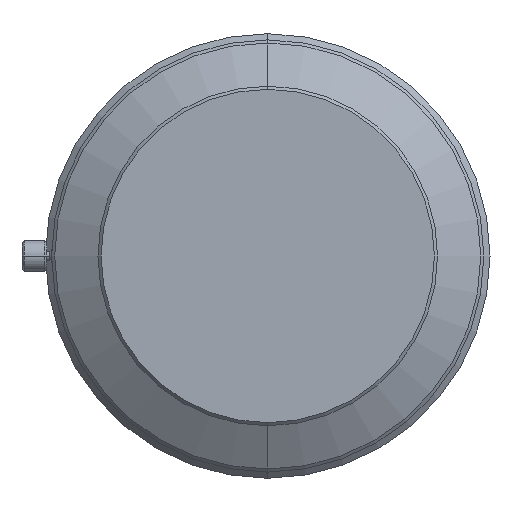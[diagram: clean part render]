
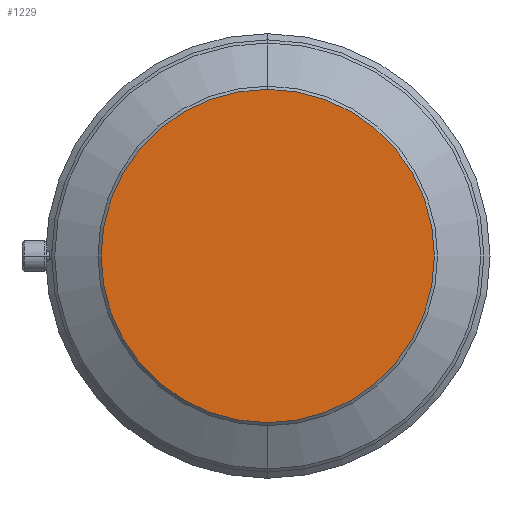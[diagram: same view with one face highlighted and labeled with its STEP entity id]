
A CAD part, left-side view. The second image highlights one B-rep face of the part: STEP entity #1229.
In plain terms, the highlighted planar face has unit normal (-1, 0, 0).
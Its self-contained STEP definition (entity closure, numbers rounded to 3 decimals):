
#55 = CARTESIAN_POINT ( 'NONE',  ( -340., 27., 0. ) ) ;
#118 = ORIENTED_EDGE ( 'NONE', *, *, #1238, .T. ) ;
#195 = VERTEX_POINT ( 'NONE', #651 ) ;
#196 = DIRECTION ( 'NONE',  ( 0., 0., -1. ) ) ;
#272 = CARTESIAN_POINT ( 'NONE',  ( -340., 0., -27. ) ) ;
#342 = FACE_OUTER_BOUND ( 'NONE', #629, .T. ) ;
#421 = ORIENTED_EDGE ( 'NONE', *, *, #877, .T. ) ;
#542 = CARTESIAN_POINT ( 'NONE',  ( -340., 0., 0. ) ) ;
#629 = EDGE_LOOP ( 'NONE', ( #118, #421 ) ) ;
#651 = CARTESIAN_POINT ( 'NONE',  ( -340., 0., 27. ) ) ;
#682 = AXIS2_PLACEMENT_3D ( 'NONE', #55, #697, #196 ) ;
#697 = DIRECTION ( 'NONE',  ( 1., 0., 0. ) ) ;
#848 = PLANE ( 'NONE',  #682 ) ;
#877 = EDGE_CURVE ( 'NONE', #195, #2027, #1260, .T. ) ;
#891 = CARTESIAN_POINT ( 'NONE',  ( -340., 0., 0. ) ) ;
#971 = DIRECTION ( 'NONE',  ( -1., 0., 0. ) ) ;
#1143 = CIRCLE ( 'NONE', #1407, 27. ) ;
#1173 = DIRECTION ( 'NONE',  ( 0., 0., 1. ) ) ;
#1186 = DIRECTION ( 'NONE',  ( 0., 0., 1. ) ) ;
#1229 = ADVANCED_FACE ( 'NONE', ( #342 ), #848, .F. ) ;
#1238 = EDGE_CURVE ( 'NONE', #2027, #195, #1143, .T. ) ;
#1260 = CIRCLE ( 'NONE', #1426, 27. ) ;
#1407 = AXIS2_PLACEMENT_3D ( 'NONE', #542, #971, #1173 ) ;
#1426 = AXIS2_PLACEMENT_3D ( 'NONE', #891, #1992, #1186 ) ;
#1992 = DIRECTION ( 'NONE',  ( -1., 0., 0. ) ) ;
#2027 = VERTEX_POINT ( 'NONE', #272 ) ;
